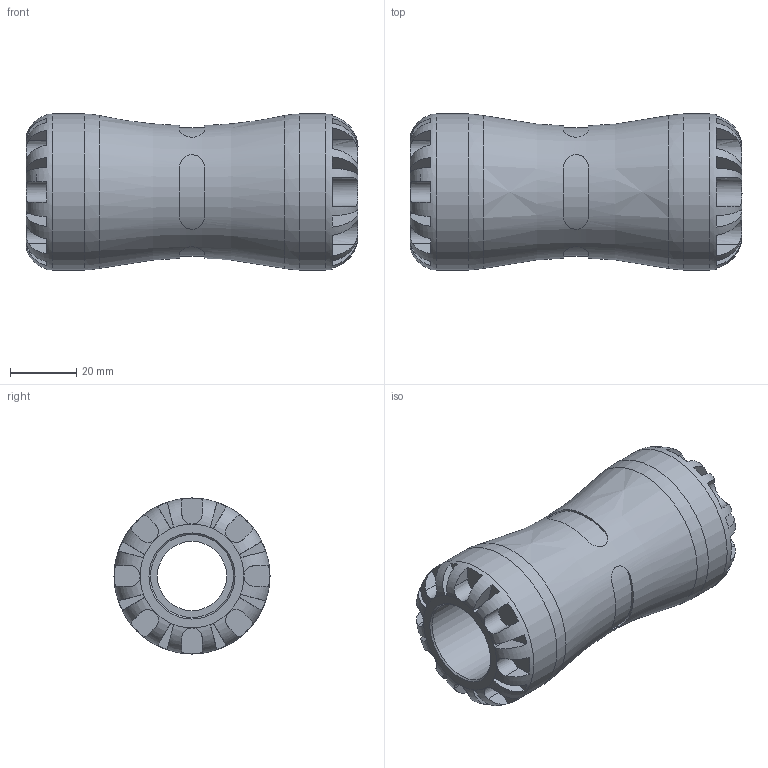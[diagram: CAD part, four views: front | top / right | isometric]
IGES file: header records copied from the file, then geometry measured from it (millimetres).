
Global section: file name: 1001Q0025_1901Q0025.ipt; native system: Autodesk Inventor 2015; preprocessor: unknown; author: KIM; date: 20170122.104538; units: millimetre
Bounding box: 100 x 47 x 47 mm (x, y, z)
Volume: 93709.1 mm3; surface area: 26351.3 mm2
Topology: 1 solids, 1 shells, 164 faces, 427 edges, 270 vertices
Faces by surface type: plane 108, revolution 34, cylinder 22
Full cylindrical faces by diameter (mm): 47 x2
